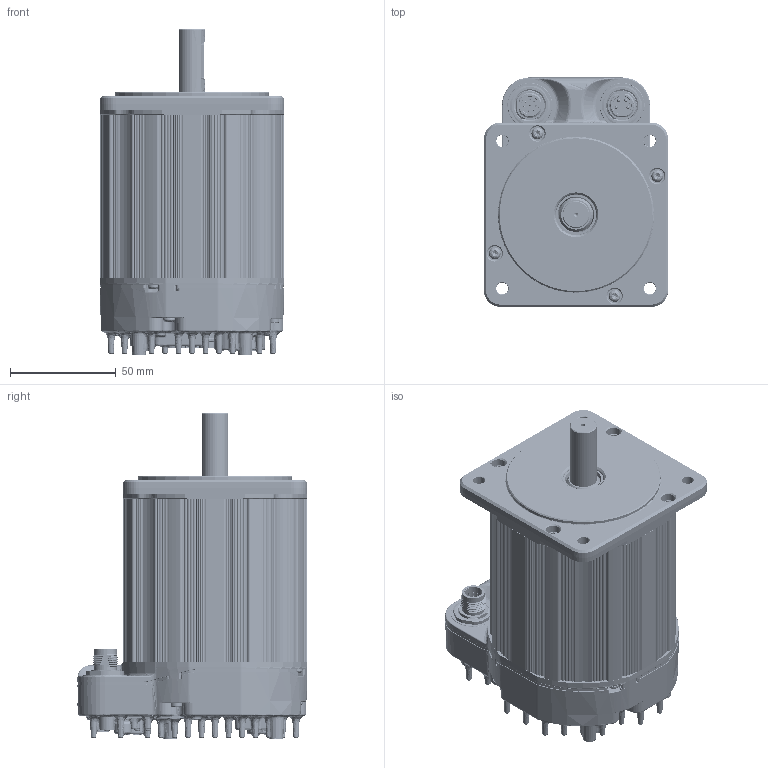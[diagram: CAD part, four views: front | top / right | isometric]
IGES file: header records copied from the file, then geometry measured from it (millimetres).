
Start section: SolidWorks IGES file using analytic representation for surfaces
Global section: file name: C:\TeknicPDM\EtherPath CPM-S\EtherPath CPM-S Customer Files\CPM-S Customer Models\CPMS 343x.igs; native system: SolidWorks 2020; preprocessor: SolidWorks 2020; author: mike_berezny; date: 241007.172720; units: inch
Bounding box: 86.87 x 108.59 x 153.98 mm (x, y, z)
Surface area: 189671.6 mm2 (no closed solid volume)
Topology: 0 solids, 0 shells, 10990 faces, 111398 edges, 110740 vertices
Faces by surface type: bspline 5508, revolution 5482
